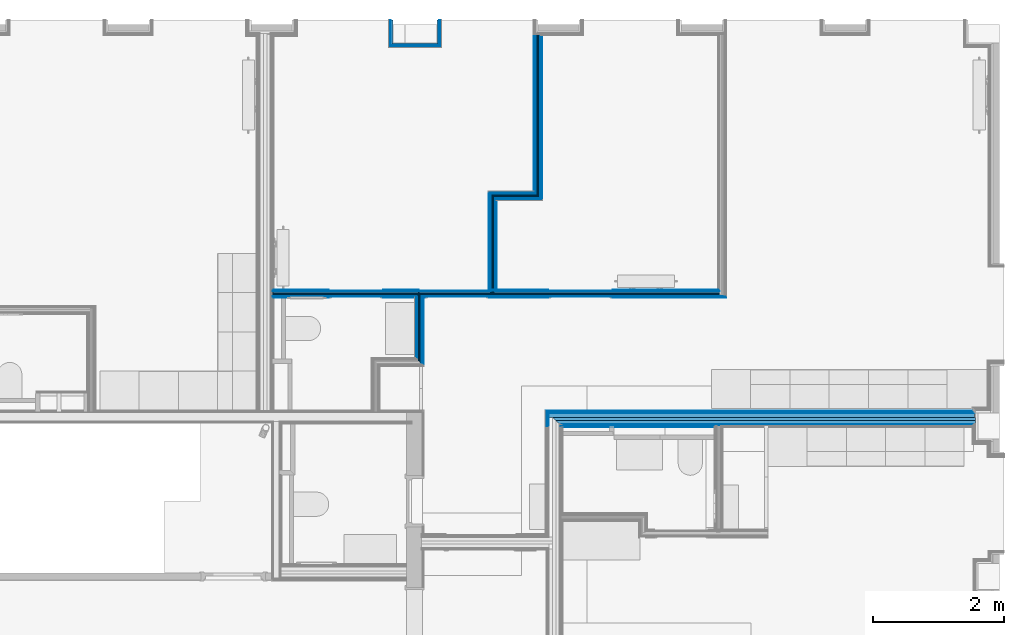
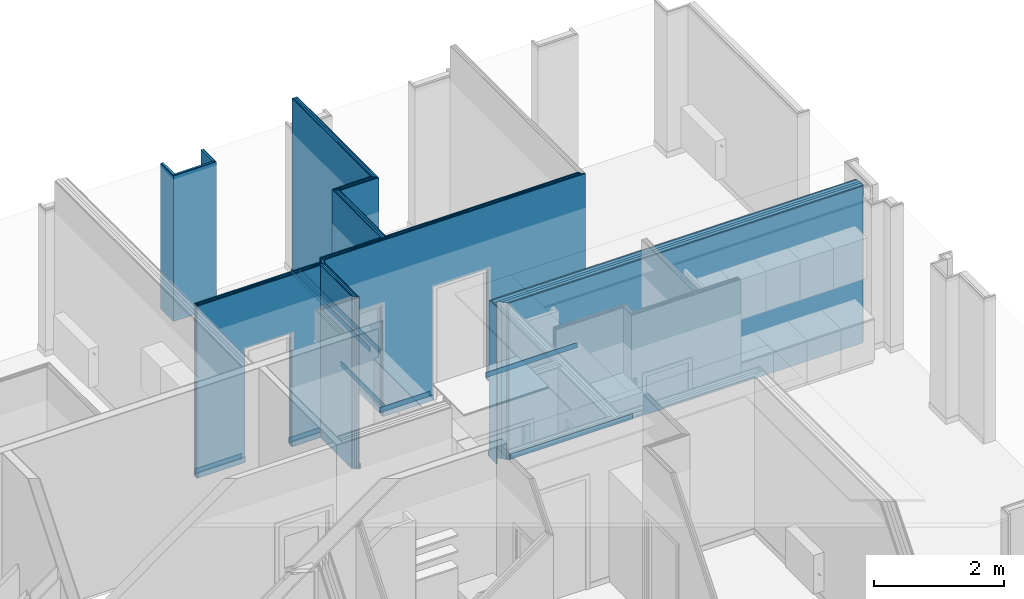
# One storey, part 25 of 65: 62 building element parts, 3 openings, 11 elements without a shape of their own.
"""IFC2X3 building model written with IfcOpenShell, lengths in metres."""

from ifc_helpers import new_model, entity, si_unit, converted_unit, derived_unit, money_unit, direction, frame, frame_2d, origin_with_axes, place, context, subcontext, project, spatial, polyline, rectangle, outline, extrude, material, type_object, element, aggregate, save


model = new_model("IFC2X3")

# Units and contexts
model_context = context("Model", 3, precision=1e-05, world=origin_with_axes(), true_north=direction((0.0, 1.0)))
body_context = subcontext(model_context, "Body", "Model", "MODEL_VIEW", scale=1.0)
ifc_project = project(units=[si_unit("LENGTHUNIT", "METRE"), si_unit("AREAUNIT", "SQUARE_METRE"), si_unit("VOLUMEUNIT", "CUBIC_METRE"), si_unit("ABSORBEDDOSEUNIT", "GRAY"), si_unit("AMOUNTOFSUBSTANCEUNIT", "MOLE"), si_unit("DOSEEQUIVALENTUNIT", "SIEVERT"), si_unit("ELECTRICCAPACITANCEUNIT", "FARAD"), si_unit("ELECTRICCHARGEUNIT", "COULOMB"), si_unit("ELECTRICCONDUCTANCEUNIT", "SIEMENS"), si_unit("ELECTRICCURRENTUNIT", "AMPERE"), si_unit("ELECTRICRESISTANCEUNIT", "OHM"), si_unit("ELECTRICVOLTAGEUNIT", "VOLT"), si_unit("ENERGYUNIT", "JOULE"), si_unit("FORCEUNIT", "NEWTON"), si_unit("FREQUENCYUNIT", "HERTZ"), si_unit("ILLUMINANCEUNIT", "LUX"), si_unit("INDUCTANCEUNIT", "HENRY"), si_unit("LUMINOUSFLUXUNIT", "LUMEN"), si_unit("LUMINOUSINTENSITYUNIT", "CANDELA"), si_unit("MAGNETICFLUXDENSITYUNIT", "TESLA"), si_unit("MAGNETICFLUXUNIT", "WEBER"), si_unit("MASSUNIT", "GRAM"), converted_unit("PLANEANGLEUNIT", "degree", entity("IfcReal", 0.0174532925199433), si_unit("PLANEANGLEUNIT", "RADIAN"), dimensions=[0, 0, 0, 0, 0, 0, 0]), si_unit("POWERUNIT", "WATT"), si_unit("PRESSUREUNIT", "PASCAL"), si_unit("RADIOACTIVITYUNIT", "BECQUEREL"), si_unit("SOLIDANGLEUNIT", "STERADIAN"), si_unit("THERMODYNAMICTEMPERATUREUNIT", "KELVIN"), si_unit("TIMEUNIT", "SECOND"), derived_unit("ACCELERATIONUNIT", [(si_unit("LENGTHUNIT", "METRE"), 1), (si_unit("TIMEUNIT", "SECOND"), -2)]), derived_unit("ANGULARVELOCITYUNIT", [(converted_unit("PLANEANGLEUNIT", "degree", entity("IfcReal", 0.0174532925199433), si_unit("PLANEANGLEUNIT", "RADIAN"), dimensions=[0, 0, 0, 0, 0, 0, 0]), 1), (si_unit("TIMEUNIT", "SECOND"), -1)]), derived_unit("CURVATUREUNIT", [(converted_unit("PLANEANGLEUNIT", "degree", entity("IfcReal", 0.0174532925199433), si_unit("PLANEANGLEUNIT", "RADIAN"), dimensions=[0, 0, 0, 0, 0, 0, 0]), 1), (si_unit("LENGTHUNIT", "METRE"), -1)]), derived_unit("DYNAMICVISCOSITYUNIT", [(si_unit("PRESSUREUNIT", "PASCAL"), 1), (si_unit("TIMEUNIT", "SECOND"), 1)]), derived_unit("HEATFLUXDENSITYUNIT", [(si_unit("POWERUNIT", "WATT"), 1), (si_unit("LENGTHUNIT", "METRE"), -2)]), derived_unit("HEATINGVALUEUNIT", [(si_unit("ENERGYUNIT", "JOULE"), 1), (si_unit("MASSUNIT", "GRAM"), -1)]), derived_unit("INTEGERCOUNTRATEUNIT", [(si_unit("TIMEUNIT", "SECOND"), -1)]), derived_unit("IONCONCENTRATIONUNIT", [(si_unit("MASSUNIT", "GRAM"), 1), (si_unit("VOLUMEUNIT", "CUBIC_METRE"), -1)]), derived_unit("ISOTHERMALMOISTURECAPACITYUNIT", [(si_unit("VOLUMEUNIT", "CUBIC_METRE"), 1), (si_unit("MASSUNIT", "GRAM"), -1)]), derived_unit("KINEMATICVISCOSITYUNIT", [(si_unit("AREAUNIT", "SQUARE_METRE"), 1), (si_unit("TIMEUNIT", "SECOND"), -1)]), derived_unit("LINEARFORCEUNIT", [(si_unit("FORCEUNIT", "NEWTON"), 1), (si_unit("LENGTHUNIT", "METRE"), -1)]), derived_unit("LINEARMOMENTUNIT", [(si_unit("FORCEUNIT", "NEWTON"), 1), (si_unit("LENGTHUNIT", "METRE"), -1)]), derived_unit("LINEARSTIFFNESSUNIT", [(si_unit("FORCEUNIT", "NEWTON"), 1), (si_unit("LENGTHUNIT", "METRE"), -1)]), derived_unit("LINEARVELOCITYUNIT", [(si_unit("LENGTHUNIT", "METRE"), 1), (si_unit("TIMEUNIT", "SECOND"), -1)]), derived_unit("LUMINOUSINTENSITYDISTRIBUTIONUNIT", [(si_unit("LUMINOUSINTENSITYUNIT", "CANDELA"), 1), (si_unit("LUMINOUSFLUXUNIT", "LUMEN"), -1)]), derived_unit("MASSDENSITYUNIT", [(si_unit("MASSUNIT", "GRAM"), 1), (si_unit("VOLUMEUNIT", "CUBIC_METRE"), -1)]), derived_unit("MASSFLOWRATEUNIT", [(si_unit("MASSUNIT", "GRAM"), 1), (si_unit("TIMEUNIT", "SECOND"), -1)]), derived_unit("MASSPERLENGTHUNIT", [(si_unit("MASSUNIT", "GRAM"), 1), (si_unit("LENGTHUNIT", "METRE"), -1)]), derived_unit("MODULUSOFELASTICITYUNIT", [(si_unit("FORCEUNIT", "NEWTON"), 1), (si_unit("AREAUNIT", "SQUARE_METRE"), -1)]), derived_unit("MODULUSOFLINEARSUBGRADEREACTIONUNIT", [(si_unit("FORCEUNIT", "NEWTON"), 1), (si_unit("LENGTHUNIT", "METRE"), -2)]), derived_unit("MODULUSOFROTATIONALSUBGRADEREACTIONUNIT", [(si_unit("FORCEUNIT", "NEWTON"), 1), (si_unit("LENGTHUNIT", "METRE"), 1)]), derived_unit("MODULUSOFSUBGRADEREACTIONUNIT", [(si_unit("FORCEUNIT", "NEWTON"), 1), (si_unit("VOLUMEUNIT", "CUBIC_METRE"), -1)]), derived_unit("MOISTUREDIFFUSIVITYUNIT", [(si_unit("VOLUMEUNIT", "CUBIC_METRE"), 1), (si_unit("TIMEUNIT", "SECOND"), -1)]), derived_unit("MOLECULARWEIGHTUNIT", [(si_unit("MASSUNIT", "GRAM"), 1), (si_unit("AMOUNTOFSUBSTANCEUNIT", "MOLE"), -1)]), derived_unit("PLANARFORCEUNIT", [(si_unit("FORCEUNIT", "NEWTON"), 1), (si_unit("LENGTHUNIT", "METRE"), -2)]), derived_unit("ROTATIONALFREQUENCYUNIT", [(si_unit("TIMEUNIT", "SECOND"), -1)]), derived_unit("ROTATIONALMASSUNIT", [(si_unit("MASSUNIT", "GRAM"), 1), (si_unit("LENGTHUNIT", "METRE"), 2)]), derived_unit("ROTATIONALSTIFFNESSUNIT", [(si_unit("FORCEUNIT", "NEWTON"), 1), (si_unit("LENGTHUNIT", "METRE"), 1), (converted_unit("PLANEANGLEUNIT", "degree", entity("IfcReal", 0.0174532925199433), si_unit("PLANEANGLEUNIT", "RADIAN"), dimensions=[0, 0, 0, 0, 0, 0, 0]), -1)]), derived_unit("SECTIONAREAINTEGRALUNIT", [(si_unit("LENGTHUNIT", "METRE"), 5)]), derived_unit("SECTIONMODULUSUNIT", [(si_unit("LENGTHUNIT", "METRE"), 3)]), derived_unit("SHEARMODULUSUNIT", [(si_unit("FORCEUNIT", "NEWTON"), 1), (si_unit("AREAUNIT", "SQUARE_METRE"), -1)]), derived_unit("SOUNDPOWERUNIT", [(si_unit("ENERGYUNIT", "JOULE"), 1), (si_unit("TIMEUNIT", "SECOND"), -1)]), derived_unit("SPECIFICHEATCAPACITYUNIT", [(si_unit("FORCEUNIT", "NEWTON"), 1), (si_unit("MASSUNIT", "GRAM"), -1), (si_unit("THERMODYNAMICTEMPERATUREUNIT", "KELVIN"), -1)]), derived_unit("TEMPERATUREGRADIENTUNIT", [(si_unit("THERMODYNAMICTEMPERATUREUNIT", "KELVIN"), 1), (si_unit("LENGTHUNIT", "METRE"), -1)]), derived_unit("THERMALADMITTANCEUNIT", [(si_unit("POWERUNIT", "WATT"), 1), (si_unit("AREAUNIT", "SQUARE_METRE"), -1), (si_unit("THERMODYNAMICTEMPERATUREUNIT", "KELVIN"), -1)]), derived_unit("THERMALCONDUCTANCEUNIT", [(si_unit("POWERUNIT", "WATT"), 1), (si_unit("LENGTHUNIT", "METRE"), -1), (si_unit("THERMODYNAMICTEMPERATUREUNIT", "KELVIN"), -1)]), derived_unit("THERMALEXPANSIONCOEFFICIENTUNIT", [(si_unit("THERMODYNAMICTEMPERATUREUNIT", "KELVIN"), -1)]), derived_unit("THERMALRESISTANCEUNIT", [(si_unit("AREAUNIT", "SQUARE_METRE"), 1), (si_unit("POWERUNIT", "WATT"), -1)]), derived_unit("THERMALTRANSMITTANCEUNIT", [(si_unit("POWERUNIT", "WATT"), 1), (si_unit("AREAUNIT", "SQUARE_METRE"), -1), (si_unit("THERMODYNAMICTEMPERATUREUNIT", "KELVIN"), -1)]), derived_unit("TORQUEUNIT", [(si_unit("FORCEUNIT", "NEWTON"), 1), (si_unit("LENGTHUNIT", "METRE"), 1)]), derived_unit("VAPORPERMEABILITYUNIT", [(si_unit("MASSUNIT", "GRAM"), 1), (si_unit("TIMEUNIT", "SECOND"), -1)]), derived_unit("VOLUMETRICFLOWRATEUNIT", [(si_unit("VOLUMEUNIT", "CUBIC_METRE"), 1), (si_unit("TIMEUNIT", "SECOND"), -1)]), derived_unit("WARPINGCONSTANTUNIT", [(si_unit("LENGTHUNIT", "METRE"), 6)]), derived_unit("WARPINGMOMENTUNIT", [(si_unit("FORCEUNIT", "NEWTON"), 1), (si_unit("LENGTHUNIT", "METRE"), 2)]), money_unit("GBP")], contexts=[model_context])

# Site, building, storey
site_placement = place(None, origin_with_axes())
site = spatial("IfcSite", under=ifc_project, at=site_placement, Name="Site", CompositionType="ELEMENT")
building_placement = place(site_placement, origin_with_axes())
building = spatial("IfcBuilding", under=site, at=building_placement, Name="Building01", CompositionType="ELEMENT")
storey_placement = place(building_placement, frame((0.0, 0.0, 8.64), z_axis=(0.0, 0.0, 1.0), x_axis=(1.0, 0.0, 0.0)))
storey = spatial("IfcBuildingStorey", under=building, at=storey_placement, Name="2F", CompositionType="ELEMENT", Elevation=8.64)

# Wall, building element parts
wall_type_1 = type_object("IfcWallType", Name="SHE_A-Walls_Type06d_ExternalWallInsulation_48mm", PredefinedType="NOTDEFINED")
wall_1_placement = place(storey_placement, frame((18.22, 14.8, 0.0), z_axis=(0.0, 0.0, 1.0), x_axis=(0.0, -1.0, 0.0)))
wall_1 = element("IfcWall", 1, at=wall_1_placement, inside=storey, type_object=wall_type_1, Name="6D", ObjectType="SHE_A-Walls_Type06d_ExternalWallInsulation_48mm")
ifc_material_1 = material(Name="A_BSUK_Insulation")
placement_1 = place(wall_1_placement, origin_with_axes())
building_element_part_1 = element("IfcBuildingElementPart", 2, at=placement_1, material=ifc_material_1, Name="1", context=body_context, shape_type="SweptSolid", body=[
    extrude(outline(polyline([(0.386, 0.036), (0.0, 0.036), (0.0, 0.0), (0.35, 0.0), (0.386, 0.036)])), origin_with_axes(), (0.0, 0.0, 1.0), 2.74),
])
ifc_material_2 = material(Name="A_BSUK_WallInternal_Finishes_Plasterboard")
building_element_part_2 = element("IfcBuildingElementPart", 3, at=placement_1, material=ifc_material_2, Name="2", context=body_context, shape_type="SweptSolid", body=[
    extrude(outline(polyline([(0.398, 0.048), (0.0, 0.048), (0.0, 0.035), (0.385, 0.035), (0.398, 0.048)])), origin_with_axes(), (0.0, 0.0, 1.0), 2.74),
])
aggregate(wall_1, [building_element_part_1, building_element_part_2])

wall_2_placement = place(storey_placement, frame((18.22, 14.45, 0.0), z_axis=(0.0, 0.0, 1.0), x_axis=(-1.0, 0.0, 0.0)))
wall_2 = element("IfcWall", 4, at=wall_2_placement, inside=storey, type_object=wall_type_1, Name="6D", ObjectType="SHE_A-Walls_Type06d_ExternalWallInsulation_48mm")
placement_2 = place(wall_2_placement, origin_with_axes())
building_element_part_3 = element("IfcBuildingElementPart", 5, at=placement_2, material=ifc_material_1, Name="1", context=body_context, shape_type="SweptSolid", body=[
    extrude(outline(polyline([(0.706, 0.036), (-0.036, 0.036), (0.0, 0.0), (0.67, 0.0), (0.706, 0.036)])), origin_with_axes(), (0.0, 0.0, 1.0), 2.74),
])
building_element_part_4 = element("IfcBuildingElementPart", 6, at=placement_2, material=ifc_material_2, Name="2", context=body_context, shape_type="SweptSolid", body=[
    extrude(outline(polyline([(0.718, 0.048), (-0.048, 0.048), (-0.035, 0.035), (0.705, 0.035), (0.718, 0.048)])), origin_with_axes(), (0.0, 0.0, 1.0), 2.74),
])
aggregate(wall_2, [building_element_part_3, building_element_part_4])

wall_3_placement = place(storey_placement, frame((17.55, 14.45, 0.0), z_axis=(0.0, 0.0, 1.0), x_axis=(0.0, 1.0, 0.0)))
wall_3 = element("IfcWall", 7, at=wall_3_placement, inside=storey, type_object=wall_type_1, Name="6D", ObjectType="SHE_A-Walls_Type06d_ExternalWallInsulation_48mm")
placement_3 = place(wall_3_placement, origin_with_axes())
building_element_part_5 = element("IfcBuildingElementPart", 8, at=placement_3, material=ifc_material_1, Name="1", context=body_context, shape_type="SweptSolid", body=[
    extrude(outline(polyline([(-0.036, 0.036), (0.0, 0.0), (0.35, 0.0), (0.35, 0.036), (-0.036, 0.036)])), origin_with_axes(), (0.0, 0.0, 1.0), 2.74),
])
building_element_part_6 = element("IfcBuildingElementPart", 9, at=placement_3, material=ifc_material_2, Name="2", context=body_context, shape_type="SweptSolid", body=[
    extrude(outline(polyline([(-0.048, 0.048), (-0.035, 0.035), (0.35, 0.035), (0.35, 0.048), (-0.048, 0.048)])), origin_with_axes(), (0.0, 0.0, 1.0), 2.74),
])
aggregate(wall_3, [building_element_part_5, building_element_part_6])

wall_type_2 = type_object("IfcWallType", Name="SHE_A-Walls_Type05a_Partition_95mm_tall", PredefinedType="NOTDEFINED")
wall_4_placement = place(storey_placement, frame((19.775, 12.099378, 0.0), z_axis=(0.0, 0.0, 1.0), x_axis=(0.0, 1.0, 0.0)))
wall_4 = element("IfcWall", 10, at=wall_4_placement, inside=storey, type_object=wall_type_2, Name="5A", ObjectType="SHE_A-Walls_Type05a_Partition_95mm_tall")
ifc_material_3 = material(Name="A_BSUK_Walls_Timber")
placement_4 = place(wall_4_placement, origin_with_axes())
building_element_part_7 = element("IfcBuildingElementPart", 11, at=placement_4, material=ifc_material_3, Name="1", context=body_context, shape_type="SweptSolid", body=[
    extrude(outline(polyline([(2.467622, -0.035), (-0.035, -0.035), (-0.05, -0.05), (2.467622, -0.05), (2.467622, -0.035)])), frame((0.0, 0.0, 0.015), z_axis=(0.0, 0.0, 1.0), x_axis=(1.0, 0.0, 0.0)), (0.0, 0.0, 1.0), 0.1),
])
building_element_part_8 = element("IfcBuildingElementPart", 12, at=placement_4, material=ifc_material_2, Name="2", context=body_context, shape_type="SweptSolid", body=[
    extrude(outline(polyline([(2.482622, -0.023), (-0.023, -0.023), (-0.035, -0.035), (2.482622, -0.035), (2.482622, -0.023)])), origin_with_axes(), (0.0, 0.0, 1.0), 3.32),
])
ifc_material_4 = material(Name="Air Cavity")
building_element_part_9 = element("IfcBuildingElementPart", 13, at=placement_4, material=ifc_material_4, Name="3", context=body_context, shape_type="SweptSolid", body=[
    extrude(outline(polyline([(2.482622, 0.0), (0.0, 0.0), (-0.023, -0.023), (2.482622, -0.023), (2.482622, 0.0)])), origin_with_axes(), (0.0, 0.0, 1.0), 3.32),
])
building_element_part_10 = element("IfcBuildingElementPart", 14, at=placement_4, material=ifc_material_1, Name="4", context=body_context, shape_type="SweptSolid", body=[
    extrude(outline(polyline([(2.482622, 0.025), (0.025, 0.025), (0.0, 0.0), (2.482622, 0.0), (2.482622, 0.025)])), origin_with_axes(), (0.0, 0.0, 1.0), 3.32),
])
building_element_part_11 = element("IfcBuildingElementPart", 15, at=placement_4, material=ifc_material_4, Name="5", context=body_context, shape_type="SweptSolid", body=[
    extrude(outline(polyline([(2.482622, 0.048), (0.048, 0.048), (0.025, 0.025), (2.482622, 0.025), (2.482622, 0.048)])), origin_with_axes(), (0.0, 0.0, 1.0), 3.32),
])
building_element_part_12 = element("IfcBuildingElementPart", 16, at=placement_4, material=ifc_material_2, Name="6", context=body_context, shape_type="SweptSolid", body=[
    extrude(outline(polyline([(2.482622, 0.06), (0.06, 0.06), (0.048, 0.048), (2.482622, 0.048), (2.482622, 0.06)])), origin_with_axes(), (0.0, 0.0, 1.0), 3.32),
])
building_element_part_13 = element("IfcBuildingElementPart", 17, at=placement_4, material=ifc_material_3, Name="7", context=body_context, shape_type="SweptSolid", body=[
    extrude(outline(polyline([(2.482622, 0.075), (0.075, 0.075), (0.06, 0.06), (2.482622, 0.06), (2.482622, 0.075)])), frame((0.0, 0.0, 0.015), z_axis=(0.0, 0.0, 1.0), x_axis=(1.0, 0.0, 0.0)), (0.0, 0.0, 1.0), 0.1),
])
aggregate(wall_4, [building_element_part_7, building_element_part_8, building_element_part_9, building_element_part_10, building_element_part_11, building_element_part_12, building_element_part_13])

wall_5_placement = place(storey_placement, frame((19.085284, 12.099378, 0.0), z_axis=(0.0, 0.0, 1.0), x_axis=(1.0, 0.0, 0.0)))
wall_5 = element("IfcWall", 18, at=wall_5_placement, inside=storey, type_object=wall_type_2, Name="5A", ObjectType="SHE_A-Walls_Type05a_Partition_95mm_tall")
placement_5 = place(wall_5_placement, origin_with_axes())
building_element_part_14 = element("IfcBuildingElementPart", 19, at=placement_5, material=ifc_material_2, Name="2", context=body_context, shape_type="SweptSolid", body=[
    extrude(outline(polyline([(0.712716, -0.023), (0.023, -0.023), (0.035, -0.035), (0.724716, -0.035), (0.712716, -0.023)])), origin_with_axes(), (0.0, 0.0, 1.0), 3.32),
])
building_element_part_15 = element("IfcBuildingElementPart", 20, at=placement_5, material=ifc_material_4, Name="3", context=body_context, shape_type="SweptSolid", body=[
    extrude(outline(polyline([(0.689716, 0.0), (0.0, 0.0), (0.023, -0.023), (0.712716, -0.023), (0.689716, 0.0)])), origin_with_axes(), (0.0, 0.0, 1.0), 3.32),
])
building_element_part_16 = element("IfcBuildingElementPart", 21, at=placement_5, material=ifc_material_1, Name="4", context=body_context, shape_type="SweptSolid", body=[
    extrude(outline(polyline([(0.664716, 0.025), (-0.025, 0.025), (0.0, 0.0), (0.689716, 0.0), (0.664716, 0.025)])), origin_with_axes(), (0.0, 0.0, 1.0), 3.32),
])
building_element_part_17 = element("IfcBuildingElementPart", 22, at=placement_5, material=ifc_material_4, Name="5", context=body_context, shape_type="SweptSolid", body=[
    extrude(outline(polyline([(0.641716, 0.048), (-0.048, 0.048), (-0.025, 0.025), (0.664716, 0.025), (0.641716, 0.048)])), origin_with_axes(), (0.0, 0.0, 1.0), 3.32),
])
building_element_part_18 = element("IfcBuildingElementPart", 23, at=placement_5, material=ifc_material_2, Name="6", context=body_context, shape_type="SweptSolid", body=[
    extrude(outline(polyline([(0.629716, 0.06), (-0.06, 0.06), (-0.048, 0.048), (0.641716, 0.048), (0.629716, 0.06)])), origin_with_axes(), (0.0, 0.0, 1.0), 3.32),
])
aggregate(wall_5, [building_element_part_14, building_element_part_15, building_element_part_16, building_element_part_17, building_element_part_18])

wall_6_placement = place(storey_placement, frame((19.085284, 10.63, 0.0), z_axis=(0.0, 0.0, 1.0), x_axis=(0.0, 1.0, 0.0)))
wall_6 = element("IfcWall", 24, at=wall_6_placement, inside=storey, type_object=wall_type_2, Name="5A", ObjectType="SHE_A-Walls_Type05a_Partition_95mm_tall")
placement_6 = place(wall_6_placement, origin_with_axes())
building_element_part_19 = element("IfcBuildingElementPart", 25, at=placement_6, material=ifc_material_3, Name="1", context=body_context, shape_type="SweptSolid", body=[
    extrude(outline(polyline([(1.434378, -0.035), (0.05, -0.035), (0.05, -0.05), (1.419378, -0.05), (1.434378, -0.035)])), frame((0.0, 0.0, 0.015), z_axis=(0.0, 0.0, 1.0), x_axis=(1.0, 0.0, 0.0)), (0.0, 0.0, 1.0), 0.1),
])
building_element_part_20 = element("IfcBuildingElementPart", 26, at=placement_6, material=ifc_material_2, Name="2", context=body_context, shape_type="SweptSolid", body=[
    extrude(outline(polyline([(1.446378, -0.023), (0.035, -0.023), (0.035, -0.035), (1.434378, -0.035), (1.446378, -0.023)])), origin_with_axes(), (0.0, 0.0, 1.0), 3.32),
])
building_element_part_21 = element("IfcBuildingElementPart", 27, at=placement_6, material=ifc_material_4, Name="3", context=body_context, shape_type="SweptSolid", body=[
    extrude(outline(polyline([(1.469378, 0.0), (0.035, 0.0), (0.035, -0.023), (1.446378, -0.023), (1.469378, 0.0)])), origin_with_axes(), (0.0, 0.0, 1.0), 3.32),
])
building_element_part_22 = element("IfcBuildingElementPart", 28, at=placement_6, material=ifc_material_1, Name="4", context=body_context, shape_type="SweptSolid", body=[
    extrude(outline(polyline([(1.494378, 0.025), (0.0, 0.025), (0.0, 0.0), (1.469378, 0.0), (1.494378, 0.025)])), origin_with_axes(), (0.0, 0.0, 1.0), 3.32),
])
building_element_part_23 = element("IfcBuildingElementPart", 29, at=placement_6, material=ifc_material_4, Name="5", context=body_context, shape_type="SweptSolid", body=[
    extrude(outline(polyline([(1.517378, 0.048), (0.0, 0.048), (0.0, 0.025), (1.494378, 0.025), (1.517378, 0.048)])), origin_with_axes(), (0.0, 0.0, 1.0), 3.32),
])
building_element_part_24 = element("IfcBuildingElementPart", 30, at=placement_6, material=ifc_material_2, Name="6", context=body_context, shape_type="SweptSolid", body=[
    extrude(outline(polyline([(1.529378, 0.06), (0.035, 0.06), (0.035, 0.048), (1.517378, 0.048), (1.529378, 0.06)])), origin_with_axes(), (0.0, 0.0, 1.0), 3.32),
])
building_element_part_25 = element("IfcBuildingElementPart", 31, at=placement_6, material=ifc_material_3, Name="7", context=body_context, shape_type="SweptSolid", body=[
    extrude(outline(polyline([(1.544378, 0.075), (0.05, 0.075), (0.035, 0.06), (1.529378, 0.06), (1.544378, 0.075)])), frame((0.0, 0.0, 0.015), z_axis=(0.0, 0.0, 1.0), x_axis=(1.0, 0.0, 0.0)), (0.0, 0.0, 1.0), 0.1),
])
aggregate(wall_6, [building_element_part_19, building_element_part_20, building_element_part_21, building_element_part_22, building_element_part_23, building_element_part_24, building_element_part_25])

wall_type_3 = type_object("IfcWallType", Name="SHE_A-Walls_Type01c_Partywall_225mm_twin_tall", PredefinedType="NOTDEFINED")
wall_7_placement = place(storey_placement, frame((26.444, 8.732, 0.0), z_axis=(0.0, 0.0, 1.0), x_axis=(-1.0, 0.0, 0.0)))
wall_7 = element("IfcWall", 32, at=wall_7_placement, inside=storey, type_object=wall_type_3, Name="1C", ObjectType="SHE_A-Walls_Type01c_Partywall_225mm_twin_tall")
placement_7 = place(wall_7_placement, origin_with_axes())
building_element_part_26 = element("IfcBuildingElementPart", 33, at=placement_7, material=ifc_material_3, Name="1", context=body_context, shape_type="SweptSolid", body=[
    extrude(outline(polyline([(6.546339, -0.088), (0.027, -0.088), (0.027, -0.103), (6.561339, -0.103), (6.546339, -0.088)])), frame((0.0, 0.0, 0.015), z_axis=(0.0, 0.0, 1.0), x_axis=(1.0, 0.0, 0.0)), (0.0, 0.0, 1.0), 0.1),
])
building_element_part_27 = element("IfcBuildingElementPart", 34, at=placement_7, material=ifc_material_2, Name="2", context=body_context, shape_type="SweptSolid", body=[
    extrude(rectangle(XDim=6.504339, YDim=0.015, at=frame_2d((3.279169, -0.0805), x_axis=(-1.0, 0.0))), origin_with_axes(), (0.0, 0.0, 1.0), 2.95),
])
building_element_part_28 = element("IfcBuildingElementPart", 35, at=placement_7, material=ifc_material_2, Name="3", context=body_context, shape_type="SweptSolid", body=[
    extrude(rectangle(XDim=6.504339, YDim=0.015, at=frame_2d((3.264169, -0.0655), x_axis=(-1.0, 0.0))), origin_with_axes(), (0.0, 0.0, 1.0), 2.95),
])
building_element_part_29 = element("IfcBuildingElementPart", 36, at=placement_7, material=ifc_material_4, Name="4", context=body_context, shape_type="SweptSolid", body=[
    extrude(rectangle(XDim=6.504339, YDim=0.058, at=frame_2d((3.264169, -0.029), x_axis=(-1.0, 0.0))), origin_with_axes(), (0.0, 0.0, 1.0), 2.95),
])
building_element_part_30 = element("IfcBuildingElementPart", 37, at=placement_7, material=ifc_material_1, Name="5", context=body_context, shape_type="SweptSolid", body=[
    extrude(outline(polyline([(6.408339, 0.05), (0.0, 0.05), (0.0, 0.0), (6.458339, 0.0), (6.408339, 0.05)])), origin_with_axes(), (0.0, 0.0, 1.0), 2.95),
])
building_element_part_31 = element("IfcBuildingElementPart", 38, at=placement_7, material=ifc_material_4, Name="6", context=body_context, shape_type="SweptSolid", body=[
    extrude(outline(polyline([(6.351339, 0.107), (0.0, 0.107), (0.0, 0.05), (6.408339, 0.05), (6.351339, 0.107)])), origin_with_axes(), (0.0, 0.0, 1.0), 2.95),
])
building_element_part_32 = element("IfcBuildingElementPart", 39, at=placement_7, material=ifc_material_2, Name="7", context=body_context, shape_type="SweptSolid", body=[
    extrude(rectangle(XDim=0.015, YDim=6.339339, at=frame_2d((3.181669, 0.1145), x_axis=(0.0, -1.0))), origin_with_axes(), (0.0, 0.0, 1.0), 2.95),
])
building_element_part_33 = element("IfcBuildingElementPart", 40, at=placement_7, material=ifc_material_2, Name="8", context=body_context, shape_type="SweptSolid", body=[
    extrude(rectangle(XDim=6.294339, YDim=0.015, at=frame_2d((3.174169, 0.1295), x_axis=(-1.0, 0.0))), origin_with_axes(), (0.0, 0.0, 1.0), 2.95),
])
building_element_part_34 = element("IfcBuildingElementPart", 41, at=placement_7, material=ifc_material_3, Name="9", context=body_context, shape_type="SweptSolid", body=[
    extrude(outline(polyline([(6.306339, 0.152), (4.132339, 0.152), (4.117339, 0.137), (6.321339, 0.137), (6.306339, 0.152)])), frame((0.0, 0.0, 0.015), z_axis=(0.0, 0.0, 1.0), x_axis=(1.0, 0.0, 0.0)), (0.0, 0.0, 1.0), 0.1),
])
building_element_part_35 = element("IfcBuildingElementPart", 42, at=placement_7, material=ifc_material_3, Name="10", context=body_context, shape_type="SweptSolid", body=[
    extrude(outline(polyline([(6.306339, 0.152), (4.132339, 0.152), (4.117339, 0.137), (6.321339, 0.137), (6.306339, 0.152)])), frame((0.0, 0.0, 0.015), z_axis=(0.0, 0.0, 1.0), x_axis=(1.0, 0.0, 0.0)), (0.0, 0.0, 1.0), 0.1),
])
building_element_part_36 = element("IfcBuildingElementPart", 43, at=placement_7, material=ifc_material_3, Name="12", context=body_context, shape_type="SweptSolid", body=[
    extrude(outline(polyline([(6.321339, 0.152), (3.967339, 0.152), (3.967339, 0.137), (6.336339, 0.137), (6.321339, 0.152)])), frame((0.0, 0.0, 0.015), z_axis=(0.0, 0.0, 1.0), x_axis=(1.0, 0.0, 0.0)), (0.0, 0.0, 1.0), 0.1),
])
aggregate(wall_7, [building_element_part_26, building_element_part_27, building_element_part_28, building_element_part_29, building_element_part_30, building_element_part_31, building_element_part_32, building_element_part_33, building_element_part_34, building_element_part_35, building_element_part_36])

wall_8_placement = place(storey_placement, frame((19.985661, 8.732, 0.0), z_axis=(0.0, 0.0, 1.0), x_axis=(0.0, -1.0, 0.0)))
wall_8 = element("IfcWall", 44, at=wall_8_placement, inside=storey, type_object=wall_type_3, Name="1C", ObjectType="SHE_A-Walls_Type01c_Partywall_225mm_twin_tall")
placement_8 = place(wall_8_placement, origin_with_axes())
building_element_part_37 = element("IfcBuildingElementPart", 45, at=placement_8, material=ifc_material_2, Name="4", context=body_context, shape_type="SweptSolid", body=[
    extrude(outline(polyline([(0.122, -0.073), (-0.088, -0.073), (-0.088, -0.088), (0.137, -0.088), (0.122, -0.073)])), origin_with_axes(), (0.0, 0.0, 1.0), 2.95),
])
building_element_part_38 = element("IfcBuildingElementPart", 46, at=placement_8, material=ifc_material_2, Name="7", context=body_context, shape_type="SweptSolid", body=[
    extrude(outline(polyline([(0.122, -0.058), (-0.073, -0.058), (-0.073, -0.073), (0.137, -0.073), (0.122, -0.058)])), origin_with_axes(), (0.0, 0.0, 1.0), 2.95),
])
aggregate(wall_8, [building_element_part_37, building_element_part_38])

# Wall, opening, building element parts
wall_9_placement = place(storey_placement, frame((17.94, 10.63, 0.0), z_axis=(0.0, 0.0, 1.0), x_axis=(-1.0, 0.0, 0.0)))
wall_9 = element("IfcWall", 47, at=wall_9_placement, inside=storey, type_object=wall_type_2, Name="5A", ObjectType="SHE_A-Walls_Type05a_Partition_95mm_tall")
opening_1_placement = place(wall_9_placement, frame((0.540552, -0.05, 0.0), z_axis=(0.0, 0.0, 1.0), x_axis=(1.0, 0.0, 0.0)))
element("IfcOpeningElement", 48, at=opening_1_placement, cuts=wall_9, Name="Opening", ObjectType="Opening", context=body_context, shape_type="SweptSolid", body=[
    extrude(rectangle(XDim=0.834, YDim=2.142, at=frame_2d((-0.417, 1.071), x_axis=(-1.0, 0.0))), frame((0.0, 0.0, 0.0), z_axis=(0.0, 1.0, 0.0), x_axis=(-1.0, 0.0, 0.0)), (0.0, 0.0, 1.0), 0.125),
])
placement_9 = place(wall_9_placement, origin_with_axes())
building_element_part_39 = element("IfcBuildingElementPart", 49, at=placement_9, material=ifc_material_3, Name="1", context=body_context, shape_type="SweptSolid", body=[
    extrude(rectangle(XDim=2.216868, YDim=0.015, at=frame_2d((1.108434, -0.0425), x_axis=(-1.0, 0.0))), frame((0.0, 0.0, 0.015), z_axis=(0.0, 0.0, 1.0), x_axis=(1.0, 0.0, 0.0)), (0.0, 0.0, 1.0), 0.1),
])
building_element_part_40 = element("IfcBuildingElementPart", 50, at=placement_9, material=ifc_material_2, Name="2", context=body_context, shape_type="SweptSolid", body=[
    extrude(rectangle(XDim=2.231868, YDim=0.012, at=frame_2d((1.115934, -0.029), x_axis=(-1.0, 0.0))), origin_with_axes(), (0.0, 0.0, 1.0), 3.24),
])
building_element_part_41 = element("IfcBuildingElementPart", 51, at=placement_9, material=ifc_material_4, Name="3", context=body_context, shape_type="SweptSolid", body=[
    extrude(rectangle(XDim=2.231868, YDim=0.023, at=frame_2d((1.115934, -0.0115), x_axis=(-1.0, 0.0))), origin_with_axes(), (0.0, 0.0, 1.0), 3.24),
])
building_element_part_42 = element("IfcBuildingElementPart", 52, at=placement_9, material=ifc_material_1, Name="4", context=body_context, shape_type="SweptSolid", body=[
    extrude(rectangle(XDim=2.231868, YDim=0.025, at=frame_2d((1.115934, 0.0125), x_axis=(-1.0, 0.0))), origin_with_axes(), (0.0, 0.0, 1.0), 3.24),
])
building_element_part_43 = element("IfcBuildingElementPart", 53, at=placement_9, material=ifc_material_4, Name="5", context=body_context, shape_type="SweptSolid", body=[
    extrude(rectangle(XDim=2.231868, YDim=0.023, at=frame_2d((1.115934, 0.0365), x_axis=(-1.0, 0.0))), origin_with_axes(), (0.0, 0.0, 1.0), 3.24),
])
building_element_part_44 = element("IfcBuildingElementPart", 54, at=placement_9, material=ifc_material_2, Name="6", context=body_context, shape_type="SweptSolid", body=[
    extrude(rectangle(XDim=2.208868, YDim=0.012, at=frame_2d((1.127434, 0.054), x_axis=(-1.0, 0.0))), origin_with_axes(), (0.0, 0.0, 1.0), 3.24),
])
building_element_part_45 = element("IfcBuildingElementPart", 55, at=placement_9, material=ifc_material_3, Name="7", context=body_context, shape_type="SweptSolid", body=[
    extrude(rectangle(XDim=2.181868, YDim=0.015, at=frame_2d((1.125934, 0.0675), x_axis=(-1.0, 0.0))), frame((0.0, 0.0, 0.015), z_axis=(0.0, 0.0, 1.0), x_axis=(1.0, 0.0, 0.0)), (0.0, 0.0, 1.0), 0.1),
])
aggregate(wall_9, [building_element_part_39, building_element_part_40, building_element_part_41, building_element_part_42, building_element_part_43, building_element_part_44, building_element_part_45])

# Wall, building element parts
wall_10_placement = place(storey_placement, frame((17.94, 9.585, 0.0), z_axis=(0.0, 0.0, 1.0), x_axis=(0.0, 1.0, 0.0)))
wall_10 = element("IfcWall", 56, at=wall_10_placement, inside=storey, type_object=wall_type_2, Name="5A", ObjectType="SHE_A-Walls_Type05a_Partition_95mm_tall")
placement_10 = place(wall_10_placement, origin_with_axes())
building_element_part_46 = element("IfcBuildingElementPart", 57, at=placement_10, material=ifc_material_3, Name="1", context=body_context, shape_type="SweptSolid", body=[
    extrude(outline(polyline([(0.97, -0.06), (-0.06, -0.06), (-0.075, -0.075), (0.97, -0.075), (0.97, -0.06)])), frame((0.0, 0.0, 0.015), z_axis=(0.0, 0.0, 1.0), x_axis=(1.0, 0.0, 0.0)), (0.0, 0.0, 1.0), 0.1),
])
building_element_part_47 = element("IfcBuildingElementPart", 58, at=placement_10, material=ifc_material_2, Name="2", context=body_context, shape_type="SweptSolid", body=[
    extrude(outline(polyline([(0.985, -0.048), (-0.048, -0.048), (-0.06, -0.06), (0.985, -0.06), (0.985, -0.048)])), origin_with_axes(), (0.0, 0.0, 1.0), 3.24),
])
building_element_part_48 = element("IfcBuildingElementPart", 59, at=placement_10, material=ifc_material_4, Name="3", context=body_context, shape_type="SweptSolid", body=[
    extrude(outline(polyline([(0.985, -0.025), (-0.025, -0.025), (-0.048, -0.048), (0.985, -0.048), (0.985, -0.025)])), origin_with_axes(), (0.0, 0.0, 1.0), 3.24),
])
building_element_part_49 = element("IfcBuildingElementPart", 60, at=placement_10, material=ifc_material_1, Name="4", context=body_context, shape_type="SweptSolid", body=[
    extrude(outline(polyline([(1.02, 0.0), (0.0, 0.0), (-0.025, -0.025), (1.02, -0.025), (1.02, 0.0)])), origin_with_axes(), (0.0, 0.0, 1.0), 3.24),
])
building_element_part_50 = element("IfcBuildingElementPart", 61, at=placement_10, material=ifc_material_4, Name="5", context=body_context, shape_type="SweptSolid", body=[
    extrude(outline(polyline([(1.02, 0.023), (0.023, 0.023), (0.0, 0.0), (1.02, 0.0), (1.02, 0.023)])), origin_with_axes(), (0.0, 0.0, 1.0), 3.24),
])
building_element_part_51 = element("IfcBuildingElementPart", 62, at=placement_10, material=ifc_material_2, Name="6", context=body_context, shape_type="SweptSolid", body=[
    extrude(outline(polyline([(0.985, 0.035), (0.035, 0.035), (0.023, 0.023), (0.985, 0.023), (0.985, 0.035)])), origin_with_axes(), (0.0, 0.0, 1.0), 3.24),
])
aggregate(wall_10, [building_element_part_46, building_element_part_47, building_element_part_48, building_element_part_49, building_element_part_50, building_element_part_51])

# Wall, openings, building element parts
wall_11_placement = place(storey_placement, frame((17.94, 10.605, 0.0), z_axis=(0.0, 0.0, 1.0), x_axis=(1.0, 0.0, 0.0)))
wall_11 = element("IfcWall", 63, at=wall_11_placement, inside=storey, type_object=wall_type_2, Name="5A", ObjectType="SHE_A-Walls_Type05a_Partition_95mm_tall")
opening_2_placement = place(wall_11_placement, frame((0.093398, -0.05, -0.015), z_axis=(0.0, 0.0, 1.0), x_axis=(1.0, 0.0, 0.0)))
element("IfcOpeningElement", 64, at=opening_2_placement, cuts=wall_11, Name="Opening", ObjectType="Opening", context=body_context, shape_type="SweptSolid", body=[
    extrude(rectangle(XDim=0.984, YDim=2.142, at=frame_2d((-0.492, 1.071), x_axis=(1.0, 0.0))), frame((0.0, 0.0, 0.0), z_axis=(0.0, 1.0, 0.0), x_axis=(-1.0, 0.0, 0.0)), (0.0, 0.0, 1.0), 0.125),
])
opening_3_placement = place(wall_11_placement, frame((1.978284, -0.05, -0.015), z_axis=(0.0, 0.0, 1.0), x_axis=(1.0, 0.0, 0.0)))
element("IfcOpeningElement", 65, at=opening_3_placement, cuts=wall_11, Name="Opening", ObjectType="Opening", context=body_context, shape_type="SweptSolid", body=[
    extrude(rectangle(XDim=0.984, YDim=2.142, at=frame_2d((-0.492, 1.071), x_axis=(-1.0, 0.0))), frame((0.0, 0.0, 0.0), z_axis=(0.0, 1.0, 0.0), x_axis=(-1.0, 0.0, 0.0)), (0.0, 0.0, 1.0), 0.125),
])
placement_11 = place(wall_11_placement, origin_with_axes())
building_element_part_52 = element("IfcBuildingElementPart", 66, at=placement_11, material=ifc_material_3, Name="1", context=body_context, shape_type="SweptSolid", body=[
    extrude(outline(polyline([(4.685, -0.035), (0.06, -0.035), (0.06, -0.05), (4.7, -0.05), (4.685, -0.035)])), frame((0.0, 0.0, 0.015), z_axis=(0.0, 0.0, 1.0), x_axis=(1.0, 0.0, 0.0)), (0.0, 0.0, 1.0), 0.1),
])
building_element_part_53 = element("IfcBuildingElementPart", 67, at=placement_11, material=ifc_material_2, Name="2", context=body_context, shape_type="SweptSolid", body=[
    extrude(outline(polyline([(4.673, -0.023), (0.048, -0.023), (0.048, -0.035), (4.685, -0.035), (4.673, -0.023)])), origin_with_axes(), (0.0, 0.0, 1.0), 3.32),
])
building_element_part_54 = element("IfcBuildingElementPart", 68, at=placement_11, material=ifc_material_4, Name="3", context=body_context, shape_type="SweptSolid", body=[
    extrude(outline(polyline([(4.65, 0.0), (0.048, 0.0), (0.048, -0.023), (4.673, -0.023), (4.65, 0.0)])), origin_with_axes(), (0.0, 0.0, 1.0), 3.32),
])
building_element_part_55 = element("IfcBuildingElementPart", 69, at=placement_11, material=ifc_material_1, Name="4", context=body_context, shape_type="SweptSolid", body=[
    extrude(rectangle(XDim=4.625, YDim=0.025, at=frame_2d((2.3125, 0.0125), x_axis=(-1.0, 0.0))), origin_with_axes(), (0.0, 0.0, 1.0), 3.32),
])
building_element_part_56 = element("IfcBuildingElementPart", 70, at=placement_11, material=ifc_material_4, Name="5", context=body_context, shape_type="SweptSolid", body=[
    extrude(rectangle(XDim=4.625, YDim=0.023, at=frame_2d((2.3125, 0.0365), x_axis=(-1.0, 0.0))), origin_with_axes(), (0.0, 0.0, 1.0), 3.32),
])
building_element_part_57 = element("IfcBuildingElementPart", 71, at=placement_11, material=ifc_material_2, Name="6", context=body_context, shape_type="SweptSolid", body=[
    extrude(rectangle(XDim=1.097284, YDim=0.012, at=frame_2d((0.548642, 0.054), x_axis=(-1.0, 0.0))), origin_with_axes(), (0.0, 0.0, 1.0), 3.32),
])
building_element_part_58 = element("IfcBuildingElementPart", 72, at=placement_11, material=ifc_material_2, Name="7", context=body_context, shape_type="SweptSolid", body=[
    extrude(outline(polyline([(4.59, 0.06), (1.168284, 0.06), (1.168284, 0.048), (4.602, 0.048), (4.59, 0.06)])), origin_with_axes(), (0.0, 0.0, 1.0), 3.32),
])
building_element_part_59 = element("IfcBuildingElementPart", 73, at=placement_11, material=ifc_material_3, Name="8", context=body_context, shape_type="SweptSolid", body=[
    extrude(rectangle(XDim=0.015, YDim=0.881, at=frame_2d((1.510784, 0.0675), x_axis=(0.0, -1.0))), frame((0.0, 0.0, 0.015), z_axis=(0.0, 0.0, 1.0), x_axis=(1.0, 0.0, 0.0)), (0.0, 0.0, 1.0), 0.1),
])
building_element_part_60 = element("IfcBuildingElementPart", 74, at=placement_11, material=ifc_material_3, Name="9", context=body_context, shape_type="SweptSolid", body=[
    extrude(outline(polyline([(4.575, 0.075), (1.070284, 0.075), (1.085284, 0.06), (4.59, 0.06), (4.575, 0.075)])), frame((0.0, 0.0, 0.015), z_axis=(0.0, 0.0, 1.0), x_axis=(1.0, 0.0, 0.0)), (0.0, 0.0, 1.0), 0.1),
])
building_element_part_61 = element("IfcBuildingElementPart", 75, at=placement_11, material=ifc_material_3, Name="10", context=body_context, shape_type="SweptSolid", body=[
    extrude(outline(polyline([(4.575, 0.075), (1.180284, 0.075), (1.180284, 0.06), (4.59, 0.06), (4.575, 0.075)])), frame((0.0, 0.0, 0.015), z_axis=(0.0, 0.0, 1.0), x_axis=(1.0, 0.0, 0.0)), (0.0, 0.0, 1.0), 0.1),
])
building_element_part_62 = element("IfcBuildingElementPart", 76, at=placement_11, material=ifc_material_3, Name="11", context=body_context, shape_type="SweptSolid", body=[
    extrude(outline(polyline([(4.575, 0.075), (2.920284, 0.075), (2.920284, 0.06), (4.59, 0.06), (4.575, 0.075)])), frame((0.0, 0.0, 0.015), z_axis=(0.0, 0.0, 1.0), x_axis=(1.0, 0.0, 0.0)), (0.0, 0.0, 1.0), 0.1),
])
aggregate(wall_11, [building_element_part_52, building_element_part_53, building_element_part_54, building_element_part_55, building_element_part_56, building_element_part_57, building_element_part_58, building_element_part_59, building_element_part_60, building_element_part_61, building_element_part_62])

save(model, "model.ifc")
